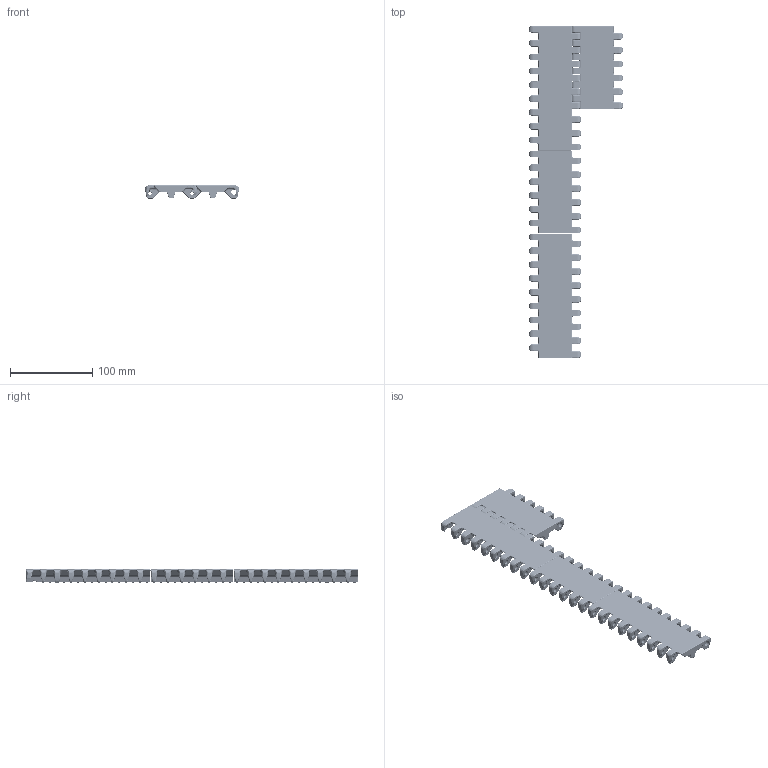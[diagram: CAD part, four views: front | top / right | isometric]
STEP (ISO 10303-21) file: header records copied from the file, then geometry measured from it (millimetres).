
FILE_DESCRIPTION(/* description */ (''),/* implementation_level */ '2;1');
FILE_NAME(/* name */ 'HS-100A-HD-N.stp',/* time_stamp */ '2020-08-20T17:02:02+08:00',/* author */ (''),/* organization */ (''),/* preprocessor_version */ 'ST-DEVELOPER v15',/* originating_system */ 'SIEMENS PLM Software NX 8.5',/* authorisation */ '');
FILE_SCHEMA (('AP203_CONFIGURATION_CONTROLLED_3D_DESIGN_OF_MECHANICAL_PARTS_AND_ASSEMBLIES_MIM_LF { 1 0 10303 403 2 1 2}'));
Products named in the file (1): Admi14B00E53c6b7
Bounding box: 114.1 x 404.34 x 16.1 mm (x, y, z)
Volume: 228040.8 mm3; surface area: 88123.5 mm2
Topology: 4 solids, 4 shells, 6598 faces, 16374 edges, 9628 vertices
Faces by surface type: bspline 3306, cylinder 1929, plane 1105, extrusion 244, sphere 14
Full cylindrical faces by diameter (mm): 6.3 x2
Entity records: 351624 total; most frequent: CARTESIAN_POINT 223962, ORIENTED_EDGE 32488, DIRECTION 18247, EDGE_CURVE 16244, VERTEX_POINT 9628, B_SPLINE_CURVE_WITH_KNOTS 7877, AXIS2_PLACEMENT_3D 6860, EDGE_LOOP 6684
